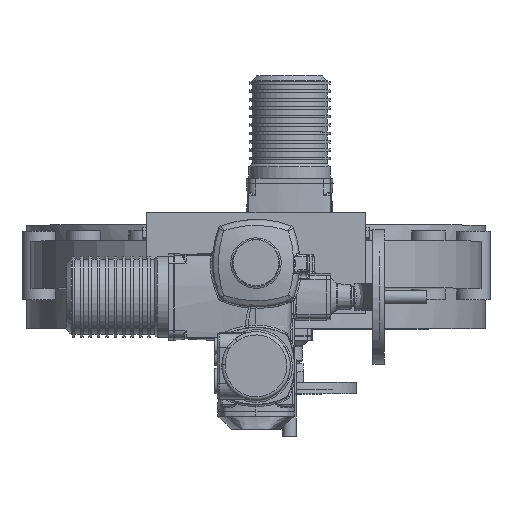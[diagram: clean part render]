
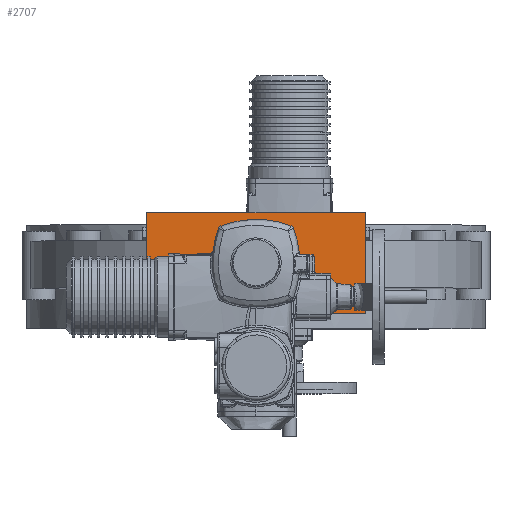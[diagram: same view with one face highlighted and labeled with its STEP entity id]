
A CAD part, top view. The second image highlights one B-rep face of the part: STEP entity #2707.
In plain terms, the highlighted planar face has unit normal (0, 0, 1).
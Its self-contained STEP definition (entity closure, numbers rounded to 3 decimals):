
#2707 = ADVANCED_FACE( '', ( #6229, #6230 ), #6231, .F. );
#6229 = FACE_BOUND( '', #18447, .T. );
#6230 = FACE_OUTER_BOUND( '', #18448, .T. );
#6231 = PLANE( '', #18449 );
#18447 = EDGE_LOOP( '', ( #33684 ) );
#18448 = EDGE_LOOP( '', ( #33685, #33686, #33687, #33688 ) );
#18449 = AXIS2_PLACEMENT_3D( '', #33689, #33690, #33691 );
#33684 = ORIENTED_EDGE( '', *, *, #44085, .T. );
#33685 = ORIENTED_EDGE( '', *, *, #44086, .T. );
#33686 = ORIENTED_EDGE( '', *, *, #43407, .T. );
#33687 = ORIENTED_EDGE( '', *, *, #44087, .T. );
#33688 = ORIENTED_EDGE( '', *, *, #41912, .T. );
#33689 = CARTESIAN_POINT( '', ( -149.25, -70., 1922. ) );
#33690 = DIRECTION( '', ( 0., 0., -1. ) );
#33691 = DIRECTION( '', ( -1., 0., 0. ) );
#41912 = EDGE_CURVE( '', #46948, #46949, #46950, .T. );
#43407 = EDGE_CURVE( '', #49324, #49325, #49326, .T. );
#44085 = EDGE_CURVE( '', #50282, #50282, #50283, .T. );
#44086 = EDGE_CURVE( '', #46949, #49324, #50284, .T. );
#44087 = EDGE_CURVE( '', #49325, #46948, #50285, .T. );
#46948 = VERTEX_POINT( '', #58566 );
#46949 = VERTEX_POINT( '', #58567 );
#46950 = LINE( '', #58568, #58569 );
#49324 = VERTEX_POINT( '', #68280 );
#49325 = VERTEX_POINT( '', #68281 );
#49326 = LINE( '', #68282, #68283 );
#50282 = VERTEX_POINT( '', #72025 );
#50283 = CIRCLE( '', #72026, 24. );
#50284 = LINE( '', #72027, #72028 );
#50285 = LINE( '', #72029, #72030 );
#58566 = CARTESIAN_POINT( '', ( 162.5, 75., 1922. ) );
#58567 = CARTESIAN_POINT( '', ( -162.5, 75., 1922. ) );
#58568 = CARTESIAN_POINT( '', ( 162.5, 75., 1922. ) );
#58569 = VECTOR( '', #80263, 1000. );
#68280 = CARTESIAN_POINT( '', ( -162.5, -75., 1922. ) );
#68281 = CARTESIAN_POINT( '', ( 162.5, -75., 1922. ) );
#68282 = CARTESIAN_POINT( '', ( -162.5, -75., 1922. ) );
#68283 = VECTOR( '', #81555, 1000. );
#72025 = CARTESIAN_POINT( '', ( -24., 0., 1922. ) );
#72026 = AXIS2_PLACEMENT_3D( '', #82104, #82105, #82106 );
#72027 = CARTESIAN_POINT( '', ( -162.5, 75., 1922. ) );
#72028 = VECTOR( '', #82107, 1000. );
#72029 = CARTESIAN_POINT( '', ( 162.5, -75., 1922. ) );
#72030 = VECTOR( '', #82108, 1000. );
#80263 = DIRECTION( '', ( -1., 0., 0. ) );
#81555 = DIRECTION( '', ( 1., 0., 0. ) );
#82104 = CARTESIAN_POINT( '', ( 0., 0., 1922. ) );
#82105 = DIRECTION( '', ( 0., 0., -1. ) );
#82106 = DIRECTION( '', ( -1., 0., 0. ) );
#82107 = DIRECTION( '', ( 0., -1., 0. ) );
#82108 = DIRECTION( '', ( 0., 1., 0. ) );
